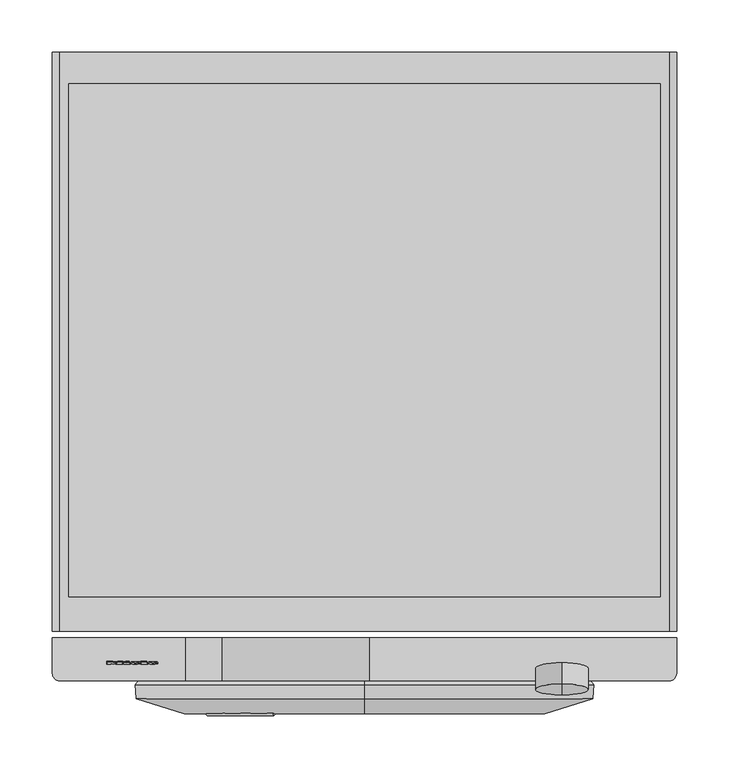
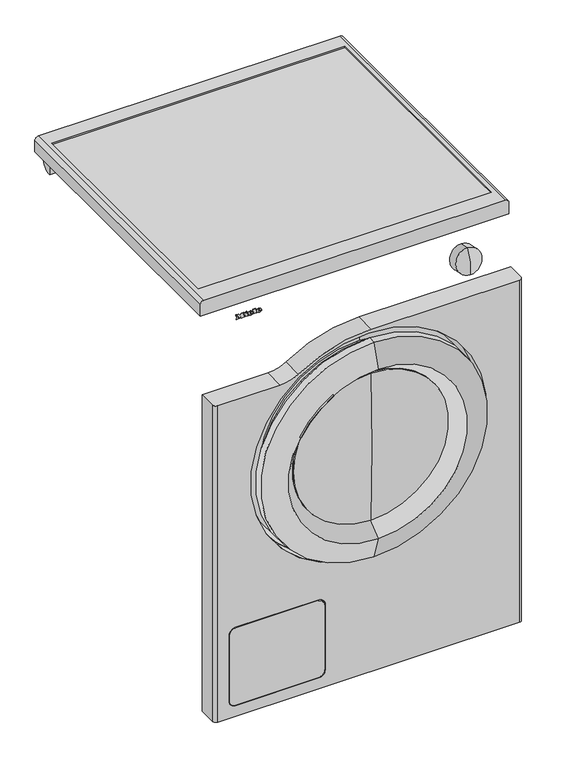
"""IFC4 building model written with IfcOpenShell, lengths in millimetres: proxy geometry, 12506590_B_PWM1108DP_LWSmartBi : 51110801_B_12506590_PWM1108DP_LWSmartBi."""

from ifc_helpers import new_model, si_unit, point, frame, frame_2d, origin, place, context, project, spatial, polyline, circle_curve, ellipse_curve, trimmed, segment, composite_curve, outline, extrude, source, transform, mapped, element, save
from ifc_brep_helpers import plane_surface, cylinder_surface, revolved_surface, extruded_surface, advanced_brep


def specialty_equipment_a851d86d(model_context):
    return source(origin(), model_context, "Body", "SolidModel", [
        advanced_brep(
        [(298.0, -559.0, 712.0), (298.0, -559.0, 13.5), (-298.0, -559.0, 13.5), (-298.0, -559.0, 659.0), (-170.4793435, -559.0, 659.0), (-135.8816811, -559.0, 669.4495268), (5.0, -559.0, 712.0), (0.0, -559.0, 628.0), (0.0, -559.0, 328.0), (-97.8720399, -559.0, 194.7938843), (-257.5266894, -559.0, 194.7938843), (-269.1610931, -559.0, 183.1594806), (-269.1610931, -559.0, 47.2319133), (-257.1610931, -559.0, 35.2319133), (-96.1598327, -559.0, 35.2319133), (-84.1993866, -559.0, 47.1923594), (-84.1993866, -559.0, 184.6186728), (-291.0, -600.0, 13.5), (291.0, -600.0, 13.5), (291.0, -600.0, 712.0), (5.0, -600.0, 712.0), (-135.8816811, -600.0, 669.4495268), (-170.4793435, -600.0, 659.0), (-291.0, -600.0, 659.0), (0.0, -600.0, 250.5), (0.0, -600.0, 705.5), (-257.5266894, -600.0, 194.7938843), (-97.8720399, -600.0, 194.7938843), (-84.1993866, -600.0, 184.6186728), (-84.1993866, -600.0, 47.1923594), (-96.1598327, -600.0, 35.2319133), (-257.1610931, -600.0, 35.2319133), (-269.1610931, -600.0, 47.2319133), (-269.1610931, -600.0, 183.1594806), (298.0, -593.0, 712.0), (-298.0, -593.0, 13.5), (-298.0, -593.0, 659.0), (298.0, -593.0, 13.5), (0.0, -575.2, 705.5), (0.0, -575.2, 250.5), (0.0, -567.7, 671.0), (0.0, -567.7, 698.0), (0.0, -567.7, 258.0), (0.0, -567.7, 285.0), (0.0, -560.7, 289.0414519), (0.0, -560.7, 666.9585481), (0.0, -560.7, 322.8), (0.0, -560.7, 633.2), (0.0, -570.5, 322.8), (0.0, -570.5, 633.2), (0.0, -570.5, 341.8), (0.0, -570.5, 614.2), (0.0, -568.0, 341.8), (0.0, -568.0, 614.2), (0.0, -568.0, 328.0), (0.0, -568.0, 628.0)],
        [
            (0, 1),
            (1, 2),
            (2, 3),
            (3, 4),
            (4, 5, circle_curve(frame((-170.4793435, -559.0, 721.5), z_axis=(0.0, -1.0, 0.0), x_axis=(1.0, 0.0, 0.0)), 62.5)),
            (5, 6, circle_curve(frame((5.0, -559.0, 457.5), z_axis=(0.0, 1.0, 0.0), x_axis=(1.0, 0.0, 0.0)), 254.5)),
            (6, 0),
            (7, 8, circle_curve(frame((0.0, -559.0, 478.0), z_axis=(0.0, -1.0, 0.0), x_axis=(0.0, 0.0, -1.0)), 150.0)),
            (8, 7, circle_curve(frame((0.0, -559.0, 478.0), z_axis=(0.0, -1.0, 0.0), x_axis=(0.0, 0.0, -1.0)), 150.0)),
            (9, 10),
            (10, 11, circle_curve(frame((-257.5266894, -559.0, 183.1594806), z_axis=(0.0, -1.0, 0.0), x_axis=(1.0, 0.0, 0.0)), 11.6344037)),
            (11, 12),
            (12, 13, circle_curve(frame((-257.1610931, -559.0, 47.2319133), z_axis=(0.0, -1.0, 0.0), x_axis=(1.0, 0.0, 0.0)), 12.0)),
            (13, 14),
            (14, 15, circle_curve(frame((-96.1598327, -559.0, 47.1923594), z_axis=(0.0, -1.0, 0.0), x_axis=(1.0, 0.0, 0.0)), 11.9604461)),
            (15, 16),
            (16, 9, circle_curve(frame((-97.8720399, -559.0, 180.5201576), z_axis=(0.0, -1.0, 0.0), x_axis=(1.0, 0.0, 0.0)), 14.2737268)),
            (17, 18),
            (18, 19),
            (19, 20),
            (20, 21, circle_curve(frame((5.0, -600.0, 457.5), z_axis=(0.0, -1.0, 0.0), x_axis=(1.0, 0.0, 0.0)), 254.5)),
            (21, 22, circle_curve(frame((-170.4793435, -600.0, 721.5), z_axis=(0.0, 1.0, 0.0), x_axis=(1.0, 0.0, 0.0)), 62.5)),
            (22, 23),
            (23, 17),
            (24, 25, circle_curve(frame((0.0, -600.0, 478.0), z_axis=(0.0, 1.0, 0.0), x_axis=(0.0, 0.0, -1.0)), 227.5)),
            (25, 24, circle_curve(frame((0.0, -600.0, 478.0), z_axis=(0.0, 1.0, 0.0), x_axis=(0.0, 0.0, -1.0)), 227.5)),
            (26, 27),
            (27, 28, circle_curve(frame((-97.8720399, -600.0, 180.5201576), z_axis=(0.0, 1.0, 0.0), x_axis=(1.0, 0.0, 0.0)), 14.2737268)),
            (28, 29),
            (29, 30, circle_curve(frame((-96.1598327, -600.0, 47.1923594), z_axis=(0.0, 1.0, 0.0), x_axis=(1.0, 0.0, 0.0)), 11.9604461)),
            (30, 31),
            (31, 32, circle_curve(frame((-257.1610931, -600.0, 47.2319133), z_axis=(0.0, 1.0, 0.0), x_axis=(1.0, 0.0, 0.0)), 12.0)),
            (32, 33),
            (33, 26, circle_curve(frame((-257.5266894, -600.0, 183.1594806), z_axis=(0.0, 1.0, 0.0), x_axis=(1.0, 0.0, 0.0)), 11.6344037)),
            (34, 0),
            (6, 20),
            (19, 34, circle_curve(frame((291.0, -593.0, 712.0), z_axis=(0.0, 0.0, 1.0), x_axis=(-1.0, 0.0, 0.0)), 7.0)),
            (2, 35),
            (35, 36),
            (36, 3),
            (1, 37),
            (37, 18, circle_curve(frame((291.0, -593.0, 13.5), z_axis=(0.0, 0.0, -1.0), x_axis=(-1.0, 0.0, 0.0)), 7.0)),
            (17, 35, circle_curve(frame((-291.0, -593.0, 13.5), z_axis=(0.0, 0.0, -1.0), x_axis=(-1.0, 0.0, 0.0)), 7.0)),
            (34, 37),
            (38, 25),
            (24, 39),
            (39, 38, circle_curve(frame((0.0, -575.2, 478.0), z_axis=(0.0, 1.0, 0.0), x_axis=(0.0, 0.0, -1.0)), 227.5)),
            (38, 39, circle_curve(frame((0.0, -575.2, 478.0), z_axis=(0.0, 1.0, 0.0), x_axis=(0.0, 0.0, -1.0)), 227.5)),
            (40, 41),
            (41, 42, circle_curve(frame((0.0, -567.7, 478.0), z_axis=(0.0, -1.0, 0.0), x_axis=(0.0, 0.0, -1.0)), 220.0)),
            (42, 43),
            (43, 40, circle_curve(frame((0.0, -567.7, 478.0), z_axis=(0.0, 1.0, 0.0), x_axis=(0.0, 0.0, -1.0)), 193.0)),
            (40, 43, circle_curve(frame((0.0, -567.7, 478.0), z_axis=(0.0, 1.0, 0.0), x_axis=(0.0, 0.0, -1.0)), 193.0)),
            (42, 41, circle_curve(frame((0.0, -567.7, 478.0), z_axis=(0.0, -1.0, 0.0), x_axis=(0.0, 0.0, -1.0)), 220.0)),
            (43, 44),
            (44, 45, circle_curve(frame((0.0, -560.7, 478.0), z_axis=(0.0, 1.0, 0.0), x_axis=(0.0, 0.0, -1.0)), 188.9585481)),
            (45, 40),
            (45, 44, circle_curve(frame((0.0, -560.7, 478.0), z_axis=(0.0, 1.0, 0.0), x_axis=(0.0, 0.0, -1.0)), 188.9585481)),
            (44, 46),
            (46, 47, circle_curve(frame((0.0, -560.7, 478.0), z_axis=(0.0, 1.0, 0.0), x_axis=(0.0, 0.0, -1.0)), 155.2)),
            (47, 45),
            (47, 46, circle_curve(frame((0.0, -560.7, 478.0), z_axis=(0.0, 1.0, 0.0), x_axis=(0.0, 0.0, -1.0)), 155.2)),
            (46, 48),
            (48, 49, circle_curve(frame((0.0, -570.5, 478.0), z_axis=(0.0, 1.0, 0.0), x_axis=(0.0, 0.0, -1.0)), 155.2)),
            (49, 47),
            (49, 48, circle_curve(frame((0.0, -570.5, 478.0), z_axis=(0.0, 1.0, 0.0), x_axis=(0.0, 0.0, -1.0)), 155.2)),
            (48, 50),
            (50, 51, circle_curve(frame((0.0, -570.5, 478.0), z_axis=(0.0, 1.0, 0.0), x_axis=(0.0, 0.0, -1.0)), 136.2)),
            (51, 49),
            (51, 50, circle_curve(frame((0.0, -570.5, 478.0), z_axis=(0.0, 1.0, 0.0), x_axis=(0.0, 0.0, -1.0)), 136.2)),
            (50, 52),
            (52, 53, circle_curve(frame((0.0, -568.0, 478.0), z_axis=(0.0, 1.0, 0.0), x_axis=(0.0, 0.0, -1.0)), 136.2)),
            (53, 51),
            (53, 52, circle_curve(frame((0.0, -568.0, 478.0), z_axis=(0.0, 1.0, 0.0), x_axis=(0.0, 0.0, -1.0)), 136.2)),
            (52, 54),
            (54, 55, circle_curve(frame((0.0, -568.0, 478.0), z_axis=(0.0, 1.0, 0.0), x_axis=(0.0, 0.0, -1.0)), 150.0)),
            (55, 53),
            (55, 54, circle_curve(frame((0.0, -568.0, 478.0), z_axis=(0.0, 1.0, 0.0), x_axis=(0.0, 0.0, -1.0)), 150.0)),
            (54, 8),
            (7, 55),
            (39, 42, circle_curve(frame((0.0, -575.2, 258.0), z_axis=(1.0, 0.0, 0.0), x_axis=(0.0, 1.0, 0.0)), 7.5)),
            (41, 38, circle_curve(frame((0.0, -575.2, 698.0), z_axis=(1.0, 0.0, 0.0), x_axis=(0.0, 1.0, 0.0)), 7.5)),
            (23, 36, circle_curve(frame((-291.0, -593.0, 659.0), z_axis=(0.0, 0.0, -1.0), x_axis=(-1.0, 0.0, 0.0)), 7.0)),
            (5, 21),
            (4, 22),
            (26, 10),
            (9, 27),
            (33, 11),
            (32, 12),
            (31, 13),
            (30, 14),
            (29, 15),
            (28, 16),
        ],
        [
            plane_surface(frame((-298.0, -559.0, 712.0), z_axis=(0.0, 1.0, 0.0), x_axis=(1.0, 0.0, 0.0))),
            plane_surface(frame((-298.0, -600.0, 712.0), z_axis=(0.0, -1.0, 0.0), x_axis=(-1.0, 0.0, 0.0))),
            plane_surface(frame((298.0, -600.0, 712.0), z_axis=(0.0, 0.0, 1.0), x_axis=(0.0, 1.0, 0.0))),
            plane_surface(frame((-298.0, -600.0, 712.0), z_axis=(-1.0, 0.0, 0.0), x_axis=(0.0, 1.0, 0.0))),
            plane_surface(frame((-298.0, -600.0, 13.5), z_axis=(0.0, 0.0, -1.0), x_axis=(0.0, 1.0, 0.0))),
            plane_surface(frame((298.0, -600.0, 13.5), z_axis=(1.0, 0.0, 0.0), x_axis=(0.0, 1.0, 0.0))),
            revolved_surface(polyline([(0.0, -575.2000000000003, 250.5), (0.0, -600.0, 250.5)]), (0.0, 1543.3738435, 478.0), (0.0, 1.0, 0.0)),
            plane_surface(frame((0.0, -567.7, 478.0), z_axis=(0.0, -1.0, 0.0), x_axis=(0.0, 0.0, -1.0))),
            revolved_surface(polyline([(0.0, -560.7, 289.0414519), (0.0, -567.7, 285.0)]), (0.0, 1543.3738435, 478.0), (0.0, 1.0, 0.0)),
            plane_surface(frame((0.0, -560.7, 478.0), z_axis=(0.0, -1.0, 0.0), x_axis=(0.0, 0.0, -1.0))),
            cylinder_surface(frame((0.0, 1543.3738435, 478.0), z_axis=(0.0, 1.0, 0.0), x_axis=(0.0, 0.0, -1.0)), 155.2),
            plane_surface(frame((0.0, -570.5, 478.0), z_axis=(0.0, -1.0, 0.0), x_axis=(0.0, 0.0, -1.0))),
            revolved_surface(polyline([(0.0, -568.0, 341.8), (0.0, -570.5, 341.8)]), (0.0, 1543.3738435, 478.0), (0.0, 1.0, 0.0)),
            plane_surface(frame((0.0, -568.0, 478.0), z_axis=(0.0, 1.0, 0.0), x_axis=(0.0, 0.0, -1.0))),
            revolved_surface(polyline([(0.0, -559.0, 328.0), (0.0, -568.0, 328.0)]), (0.0, 1543.3738435, 478.0), (0.0, 1.0, 0.0)),
            revolved_surface(trimmed(ellipse_curve(frame((0.0, -575.2, 258.0), z_axis=(-1.0, 0.0, 0.0), x_axis=(0.0, 1.0, 0.0)), 7.5, 7.5), [point((0.0, -567.7, 258.0))], [point((0.0, -575.2, 250.5))], True, "CARTESIAN"), (0.0, 1543.3738435, 478.0), (0.0, 1.0, 0.0)),
            cylinder_surface(frame((-291.0, -593.0, 712.0), z_axis=(0.0, 0.0, -1.0), x_axis=(-1.0, 0.0, 0.0)), 7.0),
            cylinder_surface(frame((291.0, -593.0, 712.0), z_axis=(0.0, 0.0, -1.0), x_axis=(-1.0, 0.0, 0.0)), 7.0),
            cylinder_surface(frame((5.0, -559.0, 457.5), z_axis=(0.0, 1.0, 0.0), x_axis=(1.0, 0.0, 0.0)), 254.5),
            revolved_surface(polyline([(-107.9793435, -600.0, 721.5), (-107.9793435, -559.0, 721.5)]), (-170.4793435, -559.0, 721.5), (0.0, -1.0, 0.0)),
            plane_surface(frame((-298.0, -600.0, 659.0), z_axis=(0.0, 0.0, 1.0), x_axis=(0.0, 1.0, 0.0))),
            plane_surface(frame((-97.8720399, -600.0, 194.7938843), z_axis=(0.0, 0.0, -1.0), x_axis=(0.0, 1.0, 0.0))),
            revolved_surface(polyline([(-245.8922857, -600.0, 183.1594806), (-245.8922857, -559.0, 183.1594806)]), (-257.5266894, -559.0, 183.1594806), (0.0, -1.0, 0.0)),
            plane_surface(frame((-269.1610931, -600.0, 183.1594806), z_axis=(1.0, 0.0, 0.0), x_axis=(0.0, 1.0, 0.0))),
            revolved_surface(polyline([(-245.16109310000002, -600.0, 47.2319133), (-245.16109310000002, -559.0, 47.2319133)]), (-257.1610931, -559.0, 47.2319133), (0.0, -1.0, 0.0)),
            plane_surface(frame((-257.1610931, -600.0, 35.2319133), z_axis=(0.0, 0.0, 1.0), x_axis=(0.0, 1.0, 0.0))),
            revolved_surface(polyline([(-84.1993866, -600.0, 47.1923594), (-84.1993866, -559.0, 47.1923594)]), (-96.1598327, -559.0, 47.1923594), (0.0, -1.0, 0.0)),
            plane_surface(frame((-84.1993866, -600.0, 47.1923594), z_axis=(-1.0, 0.0, 0.0), x_axis=(0.0, 1.0, 0.0))),
            revolved_surface(polyline([(-83.5983131, -600.0, 180.5201576), (-83.5983131, -559.0, 180.5201576)]), (-97.8720399, -559.0, 180.5201576), (0.0, -1.0, 0.0)),
        ],
        [
            (0, [[1, 2, 3, 4, 5, 6, 7], [8, 9], [10, 11, 12, 13, 14, 15, 16, 17]]),
            (1, [[18, 19, 20, 21, 22, 23, 24], [25, 26], [27, 28, 29, 30, 31, 32, 33, 34]]),
            (2, [[35, -7, 36, -20, 37]]),
            (3, [[38, 39, 40, -3]]),
            (4, [[-2, 41, 42, -18, 43, -38]]),
            (5, [[-1, -35, 44, -41]]),
            (6, [[45, -25, 46, 47]]),
            (6, [[-45, 48, -46, -26]]),
            (7, [[49, 50, 51, 52]]),
            (7, [[-49, 53, -51, 54]]),
            (8, [[-52, 55, 56, 57]]),
            (8, [[-53, -57, 58, -55]]),
            (9, [[-56, 59, 60, 61]]),
            (9, [[-58, -61, 62, -59]]),
            (10, [[-60, 63, 64, 65]]),
            (10, [[-62, -65, 66, -63]]),
            (11, [[-64, 67, 68, 69]]),
            (11, [[-66, -69, 70, -67]]),
            (12, [[-68, 71, 72, 73]]),
            (12, [[-70, -73, 74, -71]]),
            (13, [[-72, 75, 76, 77]]),
            (13, [[-74, -77, 78, -75]]),
            (14, [[-76, 79, -8, 80]]),
            (14, [[-78, -80, -9, -79]]),
            (15, [[-47, 81, -50, 82]]),
            (15, [[-48, -82, -54, -81]]),
            (16, [[-43, -24, 83, -39]]),
            (17, [[-19, -42, -44, -37]]),
            (18, [[84, -21, -36, -6]]),
            (19, [[-84, -5, 85, -22]]),
            (20, [[-85, -4, -40, -83, -23]]),
            (21, [[86, -10, 87, -27]]),
            (22, [[-86, -34, 88, -11]]),
            (23, [[-88, -33, 89, -12]]),
            (24, [[-89, -32, 90, -13]]),
            (25, [[-90, -31, 91, -14]]),
            (26, [[-91, -30, 92, -15]]),
            (27, [[-92, -29, 93, -16]]),
            (28, [[-87, -17, -93, -28]]),
        ],
    ),
        advanced_brep(
        [(-85.1993866, -559.0, 178.871588), (-85.1993866, -559.0, 49.2598644), (-98.2273377, -559.0, 36.2319133), (-257.1610931, -559.0, 36.2319133), (-268.1610931, -559.0, 47.2319133), (-268.1610931, -559.0, 180.922098), (-255.2893068, -559.0, 193.7938843), (-99.0652877, -559.0, 193.7938843), (-85.1993866, -600.0, 49.2598644), (-85.1993866, -600.0, 178.871588), (-99.0652877, -600.0, 193.7938843), (-255.2893068, -600.0, 193.7938843), (-268.1610931, -600.0, 180.922098), (-268.1610931, -600.0, 47.2319133), (-257.1610931, -600.0, 36.2319133), (-98.2273377, -600.0, 36.2319133)],
        [
            (0, 1),
            (1, 2, circle_curve(frame((-98.2273377, -559.0, 49.2598644), z_axis=(0.0, 1.0, 0.0), x_axis=(1.0, 0.0, 0.0)), 13.0279511)),
            (2, 3),
            (3, 4, circle_curve(frame((-257.1610931, -559.0, 47.2319133), z_axis=(0.0, 1.0, 0.0), x_axis=(1.0, 0.0, 0.0)), 11.0)),
            (4, 5),
            (5, 6, circle_curve(frame((-255.2893068, -559.0, 180.922098), z_axis=(0.0, 1.0, 0.0), x_axis=(1.0, 0.0, 0.0)), 12.8717863)),
            (6, 7),
            (7, 0, circle_curve(frame((-99.9078885, -559.0, 179.10764), z_axis=(0.0, 1.0, 0.0), x_axis=(1.0, 0.0, 0.0)), 14.7103959)),
            (8, 9),
            (9, 10, circle_curve(frame((-99.9078885, -600.0, 179.10764), z_axis=(0.0, -1.0, 0.0), x_axis=(1.0, 0.0, 0.0)), 14.7103959)),
            (10, 11),
            (11, 12, circle_curve(frame((-255.2893068, -600.0, 180.922098), z_axis=(0.0, -1.0, 0.0), x_axis=(1.0, 0.0, 0.0)), 12.8717863)),
            (12, 13),
            (13, 14, circle_curve(frame((-257.1610931, -600.0, 47.2319133), z_axis=(0.0, -1.0, 0.0), x_axis=(1.0, 0.0, 0.0)), 11.0)),
            (14, 15),
            (15, 8, circle_curve(frame((-98.2273377, -600.0, 49.2598644), z_axis=(0.0, -1.0, 0.0), x_axis=(1.0, 0.0, 0.0)), 13.0279511)),
            (8, 1),
            (0, 9),
            (15, 2),
            (14, 3),
            (13, 4),
            (12, 5),
            (11, 6),
            (10, 7),
        ],
        [
            plane_surface(frame((-298.0, -559.0, 712.0), z_axis=(0.0, 1.0, 0.0), x_axis=(1.0, 0.0, 0.0))),
            plane_surface(frame((-298.0, -600.0, 712.0), z_axis=(0.0, -1.0, 0.0), x_axis=(-1.0, 0.0, 0.0))),
            plane_surface(frame((-85.1993866, -600.0, 178.871588), z_axis=(1.0, 0.0, 0.0), x_axis=(0.0, 1.0, 0.0))),
            cylinder_surface(frame((-98.2273377, 0.0, 49.2598644), z_axis=(0.0, 1.0, 0.0), x_axis=(1.0, 0.0, 0.0)), 13.0279511),
            plane_surface(frame((-98.2273377, -600.0, 36.2319133), z_axis=(0.0, 0.0, -1.0), x_axis=(0.0, 1.0, 0.0))),
            cylinder_surface(frame((-257.1610931, 0.0, 47.2319133), z_axis=(0.0, 1.0, 0.0), x_axis=(1.0, 0.0, 0.0)), 11.0),
            plane_surface(frame((-268.1610931, -600.0, 47.2319133), z_axis=(-1.0, 0.0, 0.0), x_axis=(0.0, 1.0, 0.0))),
            cylinder_surface(frame((-255.2893068, 0.0, 180.922098), z_axis=(0.0, 1.0, 0.0), x_axis=(1.0, 0.0, 0.0)), 12.8717863),
            plane_surface(frame((-255.2893068, -600.0, 193.7938843), z_axis=(0.0, 0.0, 1.0), x_axis=(0.0, 1.0, 0.0))),
            cylinder_surface(frame((-99.9078885, 0.0, 179.10764), z_axis=(0.0, 1.0, 0.0), x_axis=(1.0, 0.0, 0.0)), 14.7103959),
        ],
        [
            (0, [[1, 2, 3, 4, 5, 6, 7, 8]]),
            (1, [[9, 10, 11, 12, 13, 14, 15, 16]]),
            (2, [[17, -1, 18, -9]]),
            (3, [[-17, -16, 19, -2]]),
            (4, [[-19, -15, 20, -3]]),
            (5, [[-20, -14, 21, -4]]),
            (6, [[-21, -13, 22, -5]]),
            (7, [[-22, -12, 23, -6]]),
            (8, [[-23, -11, 24, -7]]),
            (9, [[-18, -8, -24, -10]]),
        ],
    ),
        advanced_brep(
        [(-202.64, -583.6785086, 811.5729364), (-202.64, -583.5105159, 812.3632796), (-197.288, -583.5105159, 812.3632796), (-206.6, -583.5105159, 812.3632796), (-204.4, -584.0727091, 809.7183685), (-197.424, -583.6785086, 811.5729364), (-199.84, -583.6785086, 811.5729364), (-201.744, -583.8647975, 810.6965161), (-202.64, -583.2976144, 813.3649028), (-202.64, -583.1163154, 814.2178475), (-201.272, -583.1163154, 814.2178475), (-201.272, -583.2976144, 813.3649028), (-202.64, -582.700361, 811.3650247), (-201.744, -582.8866499, 810.4886044), (-199.84, -582.700361, 811.3650247), (-197.424, -582.700361, 811.3650247), (-204.4, -583.0945615, 809.5104568), (-206.6, -582.5323683, 812.1553679), (-197.288, -582.5323683, 812.1553679), (-202.64, -582.5323683, 812.1553679), (-202.64, -582.3194668, 813.1569911), (-201.272, -582.3194668, 813.1569911), (-201.272, -582.1381678, 814.0099358), (-202.64, -582.1381678, 814.0099358)],
        [
            (0, 1),
            (1, 2),
            (2, 3, ellipse_curve(frame((-201.944, -583.5105159, 812.3632796), z_axis=(0.0, -0.9781476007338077, 0.2079116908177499), x_axis=(-1.0, 0.0, 0.0)), 4.656, 3.848)),
            (3, 4, circle_curve(frame((-203.5039564, -583.453964, 812.6293358), z_axis=(0.0, -0.9781476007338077, 0.2079116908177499), x_axis=(0.0, -0.2079116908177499, -0.9781476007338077)), 3.1079688)),
            (4, 5, circle_curve(frame((-202.0372064, -583.0148545, 814.6951835), z_axis=(0.0, -0.9781476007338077, 0.2079116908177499), x_axis=(0.0, -0.2079116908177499, -0.9781476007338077)), 5.6098607)),
            (5, 6),
            (6, 7, circle_curve(frame((-201.3529412, -583.5238223, 812.3006782), z_axis=(0.0, 0.9781476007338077, -0.2079116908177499), x_axis=(0.0, -0.2079116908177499, -0.9781476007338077)), 1.6859795)),
            (7, 0, circle_curve(frame((-201.744, -583.6785086, 811.5729364), z_axis=(0.0, 0.9781476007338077, -0.2079116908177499), x_axis=(0.0, -0.2079116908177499, -0.9781476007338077)), 0.896)),
            (8, 9),
            (9, 10, circle_curve(frame((-201.956, -583.1163154, 814.2178475), z_axis=(0.0, 0.9781476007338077, -0.2079116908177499), x_axis=(0.0, -0.2079116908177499, -0.9781476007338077)), 0.684)),
            (10, 11),
            (11, 8),
            (12, 13, circle_curve(frame((-201.744, -582.700361, 811.3650247), z_axis=(0.0, -0.9781476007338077, 0.2079116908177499), x_axis=(0.0, -0.2079116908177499, -0.9781476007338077)), 0.896)),
            (13, 14, circle_curve(frame((-201.3529412, -582.5456747, 812.0927665), z_axis=(0.0, -0.9781476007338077, 0.2079116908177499), x_axis=(0.0, -0.2079116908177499, -0.9781476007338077)), 1.6859795)),
            (14, 15),
            (15, 16, circle_curve(frame((-202.0372064, -582.0367069, 814.4872718), z_axis=(0.0, 0.9781476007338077, -0.2079116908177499), x_axis=(0.0, -0.2079116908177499, -0.9781476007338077)), 5.6098607)),
            (16, 17, circle_curve(frame((-203.5039564, -582.4758164, 812.4214241), z_axis=(0.0, 0.9781476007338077, -0.2079116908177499), x_axis=(0.0, -0.2079116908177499, -0.9781476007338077)), 3.1079688)),
            (17, 18, ellipse_curve(frame((-201.944, -582.5323683, 812.1553679), z_axis=(0.0, 0.9781476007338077, -0.2079116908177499), x_axis=(-1.0, 0.0, 0.0)), 4.656, 3.848)),
            (18, 19),
            (19, 12),
            (20, 21),
            (21, 22),
            (22, 23, circle_curve(frame((-201.956, -582.1381678, 814.0099358), z_axis=(0.0, -0.9781476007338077, 0.2079116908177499), x_axis=(0.0, -0.2079116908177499, -0.9781476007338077)), 0.684)),
            (23, 20),
            (0, 12),
            (19, 1),
            (18, 2),
            (5, 15),
            (14, 6),
            (17, 3),
            (13, 7),
            (16, 4),
            (8, 20),
            (23, 9),
            (22, 10),
            (21, 11),
        ],
        [
            plane_surface(frame((-202.64, -583.5105159, 812.3632796), z_axis=(0.0, -0.9781476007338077, 0.2079116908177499), x_axis=(0.0, 0.2079116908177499, 0.9781476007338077))),
            plane_surface(frame((-202.64, -582.5323683, 812.1553679), z_axis=(0.0, 0.9781476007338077, -0.2079116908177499), x_axis=(0.0, -0.2079116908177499, -0.9781476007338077))),
            plane_surface(frame((-202.64, -583.6785086, 811.5729364), z_axis=(1.0000000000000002, 0.0, 0.0), x_axis=(0.0, 0.978147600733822, -0.20791169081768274))),
            plane_surface(frame((-202.64, -583.5105159, 812.3632796), z_axis=(0.0, -0.20791169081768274, -0.978147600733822), x_axis=(0.0, 0.978147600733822, -0.20791169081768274))),
            plane_surface(frame((-197.424, -583.6785086, 811.5729364), z_axis=(0.0, 0.20791169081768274, 0.978147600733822), x_axis=(0.0, 0.978147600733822, -0.20791169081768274))),
            extruded_surface(trimmed(ellipse_curve(frame((-201.944, -581.5542207, 811.9474562), z_axis=(0.0, -0.9781476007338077, 0.2079116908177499), x_axis=(-1.0, 0.0, 0.0)), 4.656, 3.848), [point((-197.288, -581.5542207, 811.9474562))], [point((-206.6, -581.5542207, 811.9474562))], True, "CARTESIAN"), (0.0, -0.9781476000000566, 0.20791169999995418), 1.0000000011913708),
            revolved_surface(polyline([(-201.3529412, -582.896209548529, 810.4436296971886), (-201.3529412, -583.8743571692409, 810.6515413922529)]), (-201.3529412, -582.5456747, 812.0927665), (0.0, 0.9781476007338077, -0.2079116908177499)),
            revolved_surface(polyline([(-201.744, -582.8866498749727, 810.4886044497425), (-201.744, -583.8647974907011, 810.6965161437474)]), (-201.744, -582.700361, 811.3650247), (0.0, 0.9781476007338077, -0.2079116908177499)),
            cylinder_surface(frame((-203.5039564, -582.4758164, 812.4214241), z_axis=(0.0, -0.9781476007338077, 0.2079116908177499), x_axis=(0.0, -0.2079116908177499, -0.9781476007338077)), 3.1079688),
            cylinder_surface(frame((-202.0372064, -582.0367069, 814.4872718), z_axis=(0.0, -0.9781476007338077, 0.2079116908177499), x_axis=(0.0, -0.2079116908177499, -0.9781476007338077)), 5.6098607),
            plane_surface(frame((-202.64, -583.2976144, 813.3649028), z_axis=(1.0000000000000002, 0.0, 0.0), x_axis=(0.0, 0.9781476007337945, -0.20791169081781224))),
            revolved_surface(polyline([(-201.956, -582.2803793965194, 813.340882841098), (-201.956, -583.2585269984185, 813.5487945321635)]), (-201.956, -582.1381678, 814.0099358), (0.0, 0.9781476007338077, -0.2079116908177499)),
            plane_surface(frame((-201.272, -583.1163154, 814.2178475), z_axis=(-1.0000000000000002, 0.0, 0.0), x_axis=(0.0, 0.978147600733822, -0.20791169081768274))),
            plane_surface(frame((-201.272, -583.2976144, 813.3649028), z_axis=(0.0, 0.20791169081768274, 0.978147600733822), x_axis=(0.0, 0.978147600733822, -0.20791169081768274))),
        ],
        [
            (0, [[1, 2, 3, 4, 5, 6, 7, 8], [9, 10, 11, 12]]),
            (1, [[13, 14, 15, 16, 17, 18, 19, 20], [21, 22, 23, 24]]),
            (2, [[-1, 25, -20, 26]]),
            (3, [[-2, -26, -19, 27]]),
            (4, [[-6, 28, -15, 29]]),
            (5, [[-3, -27, -18, 30]]),
            (6, [[-7, -29, -14, 31]]),
            (7, [[-8, -31, -13, -25]]),
            (8, [[-4, -30, -17, 32]]),
            (9, [[-5, -32, -16, -28]]),
            (10, [[-9, 33, -24, 34]]),
            (11, [[-10, -34, -23, 35]]),
            (12, [[-11, -35, -22, 36]]),
            (13, [[-12, -36, -21, -33]]),
        ],
    ),
        advanced_brep(
        [(-219.336, -583.6785086, 811.5729364), (-219.336, -583.5105159, 812.3632796), (-213.984, -583.5105159, 812.3632796), (-223.296, -583.5105159, 812.3632796), (-221.096, -584.0727091, 809.7183685), (-214.12, -583.6785086, 811.5729364), (-216.536, -583.6785086, 811.5729364), (-218.44, -583.8647975, 810.6965161), (-219.336, -583.2976144, 813.3649028), (-219.336, -583.1163154, 814.2178475), (-217.968, -583.1163154, 814.2178475), (-217.968, -583.2976144, 813.3649028), (-219.336, -582.700361, 811.3650247), (-218.44, -582.8866499, 810.4886044), (-216.536, -582.700361, 811.3650247), (-214.12, -582.700361, 811.3650247), (-221.096, -583.0945615, 809.5104568), (-223.296, -582.5323683, 812.1553679), (-213.984, -582.5323683, 812.1553679), (-219.336, -582.5323683, 812.1553679), (-219.336, -582.3194668, 813.1569911), (-217.968, -582.3194668, 813.1569911), (-217.968, -582.1381678, 814.0099358), (-219.336, -582.1381678, 814.0099358)],
        [
            (0, 1),
            (1, 2),
            (2, 3, ellipse_curve(frame((-218.64, -583.5105159, 812.3632796), z_axis=(0.0, -0.9781476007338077, 0.2079116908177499), x_axis=(-1.0, 0.0, 0.0)), 4.656, 3.848)),
            (3, 4, circle_curve(frame((-220.1999564, -583.453964, 812.6293358), z_axis=(0.0, -0.9781476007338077, 0.2079116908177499), x_axis=(0.0, -0.2079116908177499, -0.9781476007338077)), 3.1079688)),
            (4, 5, circle_curve(frame((-218.7332064, -583.0148545, 814.6951835), z_axis=(0.0, -0.9781476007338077, 0.2079116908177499), x_axis=(0.0, -0.2079116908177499, -0.9781476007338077)), 5.6098607)),
            (5, 6),
            (6, 7, circle_curve(frame((-218.0489412, -583.5238223, 812.3006782), z_axis=(0.0, 0.9781476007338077, -0.2079116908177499), x_axis=(0.0, -0.2079116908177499, -0.9781476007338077)), 1.6859795)),
            (7, 0, circle_curve(frame((-218.44, -583.6785086, 811.5729364), z_axis=(0.0, 0.9781476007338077, -0.2079116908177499), x_axis=(0.0, -0.2079116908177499, -0.9781476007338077)), 0.896)),
            (8, 9),
            (9, 10, circle_curve(frame((-218.652, -583.1163154, 814.2178475), z_axis=(0.0, 0.9781476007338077, -0.2079116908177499), x_axis=(0.0, -0.2079116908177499, -0.9781476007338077)), 0.684)),
            (10, 11),
            (11, 8),
            (12, 13, circle_curve(frame((-218.44, -582.700361, 811.3650247), z_axis=(0.0, -0.9781476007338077, 0.2079116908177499), x_axis=(0.0, -0.2079116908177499, -0.9781476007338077)), 0.896)),
            (13, 14, circle_curve(frame((-218.0489412, -582.5456747, 812.0927665), z_axis=(0.0, -0.9781476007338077, 0.2079116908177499), x_axis=(0.0, -0.2079116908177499, -0.9781476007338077)), 1.6859795)),
            (14, 15),
            (15, 16, circle_curve(frame((-218.7332064, -582.0367069, 814.4872718), z_axis=(0.0, 0.9781476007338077, -0.2079116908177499), x_axis=(0.0, -0.2079116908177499, -0.9781476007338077)), 5.6098607)),
            (16, 17, circle_curve(frame((-220.1999564, -582.4758164, 812.4214241), z_axis=(0.0, 0.9781476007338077, -0.2079116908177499), x_axis=(0.0, -0.2079116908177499, -0.9781476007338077)), 3.1079688)),
            (17, 18, ellipse_curve(frame((-218.64, -582.5323683, 812.1553679), z_axis=(0.0, 0.9781476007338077, -0.2079116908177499), x_axis=(-1.0, 0.0, 0.0)), 4.656, 3.848)),
            (18, 19),
            (19, 12),
            (20, 21),
            (21, 22),
            (22, 23, circle_curve(frame((-218.652, -582.1381678, 814.0099358), z_axis=(0.0, -0.9781476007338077, 0.2079116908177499), x_axis=(0.0, -0.2079116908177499, -0.9781476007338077)), 0.684)),
            (23, 20),
            (0, 12),
            (19, 1),
            (18, 2),
            (5, 15),
            (14, 6),
            (17, 3),
            (13, 7),
            (16, 4),
            (8, 20),
            (23, 9),
            (22, 10),
            (21, 11),
        ],
        [
            plane_surface(frame((-219.336, -583.5105159, 812.3632796), z_axis=(0.0, -0.9781476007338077, 0.2079116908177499), x_axis=(0.0, 0.2079116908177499, 0.9781476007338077))),
            plane_surface(frame((-219.336, -582.5323683, 812.1553679), z_axis=(0.0, 0.9781476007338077, -0.2079116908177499), x_axis=(0.0, -0.2079116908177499, -0.9781476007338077))),
            plane_surface(frame((-219.336, -583.6785086, 811.5729364), z_axis=(1.0000000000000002, 0.0, 0.0), x_axis=(0.0, 0.978147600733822, -0.20791169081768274))),
            plane_surface(frame((-219.336, -583.5105159, 812.3632796), z_axis=(0.0, -0.20791169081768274, -0.978147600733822), x_axis=(0.0, 0.978147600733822, -0.20791169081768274))),
            plane_surface(frame((-214.12, -583.6785086, 811.5729364), z_axis=(0.0, 0.20791169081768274, 0.978147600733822), x_axis=(0.0, 0.978147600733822, -0.20791169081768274))),
            extruded_surface(trimmed(ellipse_curve(frame((-218.64, -581.5542207, 811.9474562), z_axis=(0.0, -0.9781476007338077, 0.2079116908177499), x_axis=(-1.0, 0.0, 0.0)), 4.656, 3.848), [point((-213.984, -581.5542207, 811.9474562))], [point((-223.296, -581.5542207, 811.9474562))], True, "CARTESIAN"), (0.0, -0.9781476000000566, 0.20791169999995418), 1.0000000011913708),
            revolved_surface(polyline([(-218.0489412, -582.896209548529, 810.4436296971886), (-218.0489412, -583.8743571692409, 810.6515413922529)]), (-218.0489412, -582.5456747, 812.0927665), (0.0, 0.9781476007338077, -0.2079116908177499)),
            revolved_surface(polyline([(-218.44, -582.8866498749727, 810.4886044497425), (-218.44, -583.8647974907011, 810.6965161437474)]), (-218.44, -582.700361, 811.3650247), (0.0, 0.9781476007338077, -0.2079116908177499)),
            cylinder_surface(frame((-220.1999564, -582.4758164, 812.4214241), z_axis=(0.0, -0.9781476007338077, 0.2079116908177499), x_axis=(0.0, -0.2079116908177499, -0.9781476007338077)), 3.1079688),
            cylinder_surface(frame((-218.7332064, -582.0367069, 814.4872718), z_axis=(0.0, -0.9781476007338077, 0.2079116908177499), x_axis=(0.0, -0.2079116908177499, -0.9781476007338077)), 5.6098607),
            plane_surface(frame((-219.336, -583.2976144, 813.3649028), z_axis=(1.0000000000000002, 0.0, 0.0), x_axis=(0.0, 0.9781476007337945, -0.20791169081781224))),
            revolved_surface(polyline([(-218.652, -582.2803793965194, 813.340882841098), (-218.652, -583.2585269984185, 813.5487945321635)]), (-218.652, -582.1381678, 814.0099358), (0.0, 0.9781476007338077, -0.2079116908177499)),
            plane_surface(frame((-217.968, -583.1163154, 814.2178475), z_axis=(-1.0000000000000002, 0.0, 0.0), x_axis=(0.0, 0.978147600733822, -0.20791169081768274))),
            plane_surface(frame((-217.968, -583.2976144, 813.3649028), z_axis=(0.0, 0.20791169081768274, 0.978147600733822), x_axis=(0.0, 0.978147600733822, -0.20791169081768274))),
        ],
        [
            (0, [[1, 2, 3, 4, 5, 6, 7, 8], [9, 10, 11, 12]]),
            (1, [[13, 14, 15, 16, 17, 18, 19, 20], [21, 22, 23, 24]]),
            (2, [[-1, 25, -20, 26]]),
            (3, [[-2, -26, -19, 27]]),
            (4, [[-6, 28, -15, 29]]),
            (5, [[-3, -27, -18, 30]]),
            (6, [[-7, -29, -14, 31]]),
            (7, [[-8, -31, -13, -25]]),
            (8, [[-4, -30, -17, 32]]),
            (9, [[-5, -32, -16, -28]]),
            (10, [[-9, 33, -24, 34]]),
            (11, [[-10, -34, -23, 35]]),
            (12, [[-11, -35, -22, 36]]),
            (13, [[-12, -36, -21, -33]]),
        ],
    ),
        extrude(outline(polyline([(0.0, 0.0), (-0.0109087, -2.9993294), (-1.4390416, -2.9920868), (-1.4315307, 0.0), (0.0, 0.0)])), frame((-228.08, -581.5294023, 816.873952), z_axis=(0.0, -0.9781476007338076, 0.20791169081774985), x_axis=(-0.42472021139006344, 0.18822758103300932, 0.8855411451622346)), (0.0, 0.0, 1.0), 1.0),
        extrude(outline(polyline([(-0.4933908, 2.4141097), (-2.7800844, -2.4601583), (-7.0459742, -0.4588766), (-7.4401146, -1.2990179), (-8.6568709, -0.728194), (-5.976037, 4.9862153), (-4.7592806, 4.4153913), (-5.1636142, 3.5535223), (-2.1941494, 2.16044), (-1.7898157, 3.0223091), (-0.4933908, 2.4141097)])), frame((-228.08, -581.5294023, 816.873952), z_axis=(0.0, -0.9781476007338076, 0.20791169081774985), x_axis=(-0.42472021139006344, 0.18822758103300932, 0.8855411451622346)), (0.0, 0.0, 1.0), 1.0),
        extrude(outline(polyline([(0.0, 0.0), (0.0, -1.3039999), (-5.504, -1.3039999), (-5.504, 5.352), (-6.488, 5.352), (-6.488, 6.696), (0.0, 6.696), (0.0, 5.352), (-0.96, 5.352), (-0.96, 0.0), (0.0, 0.0)])), frame((-213.536, -581.7023849, 816.0601332), z_axis=(0.0, -0.9781476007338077, 0.2079116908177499), x_axis=(-1.0, 0.0, 0.0)), (0.0, 0.0, 1.0), 1.0),
        extrude(outline(polyline([(0.0, 0.0), (0.0, -1.3039999), (-5.576, -1.3039999), (-7.92, 1.6960001), (-10.256, -1.3039999), (-15.128, -1.3039999), (-15.128, 0.0), (-14.112, 0.0), (-14.112, 5.352), (-15.128, 5.352), (-15.128, 6.696), (-8.744, 6.696), (-8.744, 5.352), (-9.728, 5.352), (-9.728, 1.8807777), (-6.136, 6.696), (-2.56, 1.9488753), (-2.56, 5.352), (-3.52, 5.352), (-3.52, 6.696), (0.0, 6.696), (0.0, 5.352), (-0.968, 5.352), (-0.968, 0.0), (0.0, 0.0)])), frame((-246.0, -581.7023849, 816.0601332), z_axis=(0.0, -0.9781476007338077, 0.2079116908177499), x_axis=(-1.0, 0.0, 0.0)), (0.0, 0.0, 1.0), 1.0),
        advanced_brep(
        [(-86.5, -633.2, 627.8223949), (-86.5, -630.2, 627.8223949), (-149.8223949, -633.2, 564.5), (-149.8223949, -630.2, 564.5)],
        [
            (0, 1, circle_curve(frame((-86.5, -631.7, 627.8223949), z_axis=(0.8660254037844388, 0.0, 0.49999999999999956), x_axis=(0.0, 1.0, 0.0)), 1.5)),
            (1, 0, circle_curve(frame((-86.5, -631.7, 627.8223949), z_axis=(0.8660254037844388, 0.0, 0.49999999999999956), x_axis=(0.0, 1.0, 0.0)), 1.5)),
            (2, 3, circle_curve(frame((-149.8223949, -631.7, 564.5), z_axis=(-0.5000000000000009, 0.0, -0.8660254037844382), x_axis=(0.0, 1.0, 0.0)), 1.5)),
            (3, 2, circle_curve(frame((-149.8223949, -631.7, 564.5), z_axis=(-0.5000000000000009, 0.0, -0.8660254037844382), x_axis=(0.0, 1.0, 0.0)), 1.5)),
            (3, 1, circle_curve(frame((0.0, -630.2, 478.0), z_axis=(0.0, 1.0, 0.0), x_axis=(-0.49999999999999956, 0.0, 0.8660254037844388)), 173.0)),
            (0, 2, circle_curve(frame((0.0, -633.2, 478.0), z_axis=(0.0, -1.0, 0.0), x_axis=(-0.49999999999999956, 0.0, 0.8660254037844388)), 173.0)),
        ],
        [
            plane_surface(frame((0.0, 1543.3738435, 478.0), z_axis=(0.8660254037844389, 0.0, 0.4999999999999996), x_axis=(-0.4999999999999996, 0.0, 0.8660254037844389))),
            plane_surface(frame((0.0, 1543.3738435, 478.0), z_axis=(-0.5000000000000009, 0.0, -0.8660254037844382), x_axis=(-0.8660254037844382, 0.0, 0.5000000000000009))),
            revolved_surface(trimmed(ellipse_curve(frame((-86.5, -631.7, 627.8223949), z_axis=(-0.8660254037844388, 0.0, -0.49999999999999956), x_axis=(0.0, 1.0, 0.0)), 1.5, 1.5), [point((-86.5, -630.2, 627.8223949))], [point((-86.5, -633.2, 627.8223949))], True, "CARTESIAN"), (0.0, 1543.3738435, 478.0), (0.0, 1.0, 0.0)),
            revolved_surface(trimmed(ellipse_curve(frame((-86.5, -631.7, 627.8223949), z_axis=(-0.8660254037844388, 0.0, -0.49999999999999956), x_axis=(0.0, 1.0, 0.0)), 1.5, 1.5), [point((-86.5, -633.2, 627.8223949))], [point((-86.5, -630.2, 627.8223949))], True, "CARTESIAN"), (0.0, 1543.3738435, 478.0), (0.0, 1.0, 0.0)),
        ],
        [
            (0, [[1, 2]]),
            (1, [[3, 4]]),
            (2, [[5, -1, 6, -4]]),
            (3, [[-6, -2, -5, -3]]),
        ],
    ),
        advanced_brep(
        [(0.0, -591.2, 328.0), (0.0, -591.2, 628.0), (0.0, -603.5454628, 628.0), (0.0, -603.5454628, 328.0), (0.0, -591.2, 314.0), (0.0, -591.2, 642.0), (0.0, -588.0, 302.5), (0.0, -588.0, 653.5), (0.0, -588.0, 270.7782663), (0.0, -588.0, 685.2217337), (0.0, -603.8, 257.8), (0.0, -603.8, 698.2), (0.0, -617.2157986, 259.0), (0.0, -617.2157986, 697.0), (0.0, -631.667863, 304.9), (0.0, -631.667863, 651.1)],
        [
            (0, 1, circle_curve(frame((0.0, -591.2, 478.0), z_axis=(0.0, 1.0, 0.0), x_axis=(0.0, 0.0, 1.0)), 150.0)),
            (1, 2),
            (2, 3, circle_curve(frame((0.0, -603.5454628, 478.0), z_axis=(0.0, -1.0, 0.0), x_axis=(0.0, 0.0, 1.0)), 150.0)),
            (3, 0),
            (1, 0, circle_curve(frame((0.0, -591.2, 478.0), z_axis=(0.0, 1.0, 0.0), x_axis=(0.0, 0.0, 1.0)), 150.0)),
            (3, 2, circle_curve(frame((0.0, -603.5454628, 478.0), z_axis=(0.0, -1.0, 0.0), x_axis=(0.0, 0.0, 1.0)), 150.0)),
            (4, 5, circle_curve(frame((0.0, -591.2, 478.0), z_axis=(0.0, 1.0, 0.0), x_axis=(0.0, 0.0, 1.0)), 164.0)),
            (5, 1),
            (0, 4),
            (5, 4, circle_curve(frame((0.0, -591.2, 478.0), z_axis=(0.0, 1.0, 0.0), x_axis=(0.0, 0.0, 1.0)), 164.0)),
            (6, 7, circle_curve(frame((0.0, -588.0, 478.0), z_axis=(0.0, 1.0, 0.0), x_axis=(0.0, 0.0, 1.0)), 175.5)),
            (7, 5),
            (4, 6),
            (7, 6, circle_curve(frame((0.0, -588.0, 478.0), z_axis=(0.0, 1.0, 0.0), x_axis=(0.0, 0.0, 1.0)), 175.5)),
            (8, 9, circle_curve(frame((0.0, -588.0, 478.0), z_axis=(0.0, 1.0, 0.0), x_axis=(0.0, 0.0, 1.0)), 207.2217337)),
            (9, 7),
            (6, 8),
            (9, 8, circle_curve(frame((0.0, -588.0, 478.0), z_axis=(0.0, 1.0, 0.0), x_axis=(0.0, 0.0, 1.0)), 207.2217337)),
            (10, 11, circle_curve(frame((0.0, -603.8, 478.0), z_axis=(0.0, 1.0, 0.0), x_axis=(0.0, 0.0, 1.0)), 220.2)),
            (11, 9),
            (8, 10),
            (11, 10, circle_curve(frame((0.0, -603.8, 478.0), z_axis=(0.0, 1.0, 0.0), x_axis=(0.0, 0.0, 1.0)), 220.2)),
            (12, 13, circle_curve(frame((0.0, -617.2157986, 478.0), z_axis=(0.0, 1.0, 0.0), x_axis=(0.0, 0.0, 1.0)), 219.0)),
            (13, 11),
            (10, 12),
            (13, 12, circle_curve(frame((0.0, -617.2157986, 478.0), z_axis=(0.0, 1.0, 0.0), x_axis=(0.0, 0.0, 1.0)), 219.0)),
            (14, 15, circle_curve(frame((0.0, -631.667863, 478.0), z_axis=(0.0, 1.0, 0.0), x_axis=(0.0, 0.0, 1.0)), 173.1)),
            (15, 13, circle_curve(frame((0.0, -52.6, 494.0), z_axis=(-1.0, 0.0, 0.0), x_axis=(0.0, 1.0, 0.0)), 600.0)),
            (12, 14, circle_curve(frame((0.0, -52.6, 462.0), z_axis=(-1.0, 0.0, 0.0), x_axis=(0.0, 1.0, 0.0)), 600.0)),
            (15, 14, circle_curve(frame((0.0, -631.667863, 478.0), z_axis=(0.0, 1.0, 0.0), x_axis=(0.0, 0.0, 1.0)), 173.1)),
            (2, 15),
            (14, 3),
        ],
        [
            revolved_surface(polyline([(0.0, -603.5454628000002, 628.0), (0.0, -591.2000000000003, 628.0)]), (0.0, 1543.3738435, 478.0), (0.0, -1.0, 0.0)),
            plane_surface(frame((0.0, -591.2, 478.0), z_axis=(0.0, 1.0, 0.0), x_axis=(0.0, 0.0, 1.0))),
            revolved_surface(polyline([(0.0, -591.2, 642.0), (0.0, -588.0, 653.5)]), (0.0, 1543.3738435, 478.0), (0.0, -1.0, 0.0)),
            plane_surface(frame((0.0, -588.0, 478.0), z_axis=(0.0, 1.0, 0.0), x_axis=(0.0, 0.0, 1.0))),
            revolved_surface(polyline([(0.0, -588.0, 685.2217337), (0.0, -603.8, 698.2)]), (0.0, 1543.3738435, 478.0), (0.0, -1.0, 0.0)),
            revolved_surface(polyline([(0.0, -603.8, 698.2), (0.0, -617.2157986, 697.0)]), (0.0, 1543.3738435, 478.0), (0.0, -1.0, 0.0)),
            revolved_surface(trimmed(ellipse_curve(frame((0.0, -52.6, 494.0), z_axis=(1.0, 0.0, 0.0), x_axis=(0.0, 1.0, 0.0)), 600.0, 600.0), [point((0.0, -617.2157986, 697.0))], [point((0.0, -631.667863, 651.1))], True, "CARTESIAN"), (0.0, 1543.3738435, 478.0), (0.0, -1.0, 0.0)),
            revolved_surface(polyline([(0.0, -631.667863, 651.1), (0.0, -603.5454628, 628.0)]), (0.0, 1543.3738435, 478.0), (0.0, -1.0, 0.0)),
        ],
        [
            (0, [[1, 2, 3, 4]]),
            (0, [[5, -4, 6, -2]]),
            (1, [[7, 8, -1, 9]]),
            (1, [[10, -9, -5, -8]]),
            (2, [[11, 12, -7, 13]]),
            (2, [[14, -13, -10, -12]]),
            (3, [[15, 16, -11, 17]]),
            (3, [[18, -17, -14, -16]]),
            (4, [[19, 20, -15, 21]]),
            (4, [[22, -21, -18, -20]]),
            (5, [[23, 24, -19, 25]]),
            (5, [[26, -25, -22, -24]]),
            (6, [[27, 28, -23, 29]]),
            (6, [[30, -29, -26, -28]]),
            (7, [[-3, 31, -27, 32]]),
            (7, [[-6, -32, -30, -31]]),
        ],
    ),
        advanced_brep(
        [(0.0, -604.3847498, 328.0), (0.0, -604.3847498, 628.0), (0.0, -607.2, 478.0), (0.0, -606.8865105, 328.0), (0.0, -606.8865105, 628.0), (0.0, -609.7, 478.0)],
        [
            (0, 1, circle_curve(frame((0.0, -604.3847498, 478.0), z_axis=(0.0, 1.0, 0.0), x_axis=(0.0, 0.0, 1.0)), 150.0)),
            (1, 2, circle_curve(frame((0.0, 3390.3, 478.0), z_axis=(1.0, 0.0, 0.0), x_axis=(0.0, 1.0, 0.0)), 3997.5)),
            (2, 0, circle_curve(frame((0.0, 3390.3, 478.0), z_axis=(1.0, 0.0, 0.0), x_axis=(0.0, 1.0, 0.0)), 3997.5)),
            (1, 0, circle_curve(frame((0.0, -604.3847498, 478.0), z_axis=(0.0, 1.0, 0.0), x_axis=(0.0, 0.0, 1.0)), 150.0)),
            (3, 4, circle_curve(frame((0.0, -606.8865105, 478.0), z_axis=(0.0, 1.0, 0.0), x_axis=(0.0, 0.0, 1.0)), 150.0)),
            (4, 1),
            (0, 3),
            (4, 3, circle_curve(frame((0.0, -606.8865105, 478.0), z_axis=(0.0, 1.0, 0.0), x_axis=(0.0, 0.0, 1.0)), 150.0)),
            (5, 4, circle_curve(frame((0.0, 3390.3, 478.0), z_axis=(-1.0, 0.0, 0.0), x_axis=(0.0, 1.0, 0.0)), 4000.0)),
            (3, 5, circle_curve(frame((0.0, 3390.3, 478.0), z_axis=(-1.0, 0.0, 0.0), x_axis=(0.0, 1.0, 0.0)), 4000.0)),
        ],
        [
            revolved_surface(trimmed(ellipse_curve(frame((0.0, 3390.3, 478.0), z_axis=(-1.0, 0.0, 0.0), x_axis=(0.0, 1.0, 0.0)), 3997.5, 3997.5), [point((0.0, -607.2, 478.0))], [point((0.0, -604.3847498, 628.0))], True, "CARTESIAN"), (0.0, 1543.3738435, 478.0), (0.0, -1.0, 0.0)),
            cylinder_surface(frame((0.0, 1543.3738435, 478.0), z_axis=(0.0, -1.0, 0.0), x_axis=(0.0, 0.0, 1.0)), 150.0),
            revolved_surface(trimmed(ellipse_curve(frame((0.0, 3390.3, 478.0), z_axis=(1.0, 0.0, 0.0), x_axis=(0.0, 1.0, 0.0)), 4000.0, 4000.0), [point((0.0, -606.8865105, 628.0))], [point((0.0, -609.7, 478.0))], True, "CARTESIAN"), (0.0, 1543.3738435, 478.0), (0.0, -1.0, 0.0)),
        ],
        [
            (0, [[1, 2, 3]]),
            (0, [[4, -3, -2]]),
            (1, [[5, 6, -1, 7]]),
            (1, [[8, -7, -4, -6]]),
            (2, [[9, -5, 10]]),
            (2, [[-10, -8, -9]]),
        ],
    ),
        advanced_brep(
        [(-291.0, -553.0, 846.0), (291.0, -553.0, 846.0), (291.0, 0.0, 846.0), (-291.0, 0.0, 846.0), (-282.5, -30.0, 846.0), (282.5, -30.0, 846.0), (282.5, -520.0, 846.0), (-282.5, -520.0, 846.0), (-282.5, -30.0, 843.7), (282.5, -30.0, 843.7), (298.0, -553.0, 816.0), (-298.0, -553.0, 816.0), (-298.0, 0.0, 816.0), (298.0, 0.0, 816.0), (298.0, -553.0, 839.0), (-298.0, -553.0, 839.0), (-298.0, 0.0, 839.0), (298.0, 0.0, 839.0), (-282.5, -520.0, 843.7), (282.5, -520.0, 843.7)],
        [
            (0, 1),
            (1, 2),
            (2, 3),
            (3, 0),
            (4, 5),
            (5, 6),
            (6, 7),
            (7, 4),
            (8, 9),
            (9, 5),
            (4, 8),
            (10, 11),
            (11, 12),
            (12, 13),
            (13, 10),
            (10, 14),
            (14, 1, circle_curve(frame((291.0, -553.0, 839.0), z_axis=(0.0, -1.0, 0.0), x_axis=(1.0, 0.0, 0.0)), 7.0)),
            (0, 15, circle_curve(frame((-291.0, -553.0, 839.0), z_axis=(0.0, -1.0, 0.0), x_axis=(1.0, 0.0, 0.0)), 7.0)),
            (15, 11),
            (12, 16),
            (16, 3, circle_curve(frame((-291.0, 0.0, 839.0), z_axis=(0.0, 1.0, 0.0), x_axis=(1.0, 0.0, 0.0)), 7.0)),
            (2, 17, circle_curve(frame((291.0, 0.0, 839.0), z_axis=(0.0, 1.0, 0.0), x_axis=(1.0, 0.0, 0.0)), 7.0)),
            (17, 13),
            (17, 14),
            (15, 16),
            (8, 18),
            (18, 19),
            (19, 9),
            (7, 18),
            (19, 6),
        ],
        [
            plane_surface(frame((291.0, -553.0, 846.0), z_axis=(0.0, 0.0, 1.0), x_axis=(0.0, 1.0, 0.0))),
            plane_surface(frame((282.5, -30.0, 846.0), z_axis=(0.0, -1.0, 0.0), x_axis=(0.0, 0.0, -1.0))),
            plane_surface(frame((-298.0, -553.0, 816.0), z_axis=(0.0, 0.0, -1.0), x_axis=(0.0, 1.0, 0.0))),
            plane_surface(frame((298.0, -553.0, 816.0), z_axis=(0.0, -1.0, 0.0), x_axis=(0.0, 0.0, 1.0))),
            plane_surface(frame((298.0, 0.0, 816.0), z_axis=(0.0, 1.0, 0.0), x_axis=(0.0, 0.0, -1.0))),
            plane_surface(frame((298.0, -553.0, 816.0), z_axis=(1.0, 0.0, 0.0), x_axis=(0.0, 1.0, 0.0))),
            plane_surface(frame((-298.0, -553.0, 839.0), z_axis=(-1.0, 0.0, 0.0), x_axis=(0.0, 1.0, 0.0))),
            cylinder_surface(frame((291.0, 0.0, 839.0), z_axis=(0.0, -1.0, 0.0), x_axis=(1.0, 0.0, 0.0)), 7.0),
            cylinder_surface(frame((-291.0, 0.0, 839.0), z_axis=(0.0, -1.0, 0.0), x_axis=(1.0, 0.0, 0.0)), 7.0),
            plane_surface(frame((-282.5, -30.0, 843.7), z_axis=(0.0, 0.0, 1.0), x_axis=(1.0, 0.0, 0.0))),
            plane_surface(frame((-282.5, -30.0, 846.0), z_axis=(1.0, 0.0, 0.0), x_axis=(0.0, 0.0, -1.0))),
            plane_surface(frame((282.5, -520.0, 846.0), z_axis=(-1.0, 0.0, 0.0), x_axis=(0.0, 0.0, -1.0))),
            plane_surface(frame((-282.5, -520.0, 846.0), z_axis=(0.0, 1.0, 0.0), x_axis=(0.0, 0.0, -1.0))),
        ],
        [
            (0, [[1, 2, 3, 4], [5, 6, 7, 8]]),
            (1, [[9, 10, -5, 11]]),
            (2, [[12, 13, 14, 15]]),
            (3, [[16, 17, -1, 18, 19, -12]]),
            (4, [[-14, 20, 21, -3, 22, 23]]),
            (5, [[-16, -15, -23, 24]]),
            (6, [[-19, 25, -20, -13]]),
            (7, [[-17, -24, -22, -2]]),
            (8, [[-18, -4, -21, -25]]),
            (9, [[-9, 26, 27, 28]]),
            (10, [[-26, -11, -8, 29]]),
            (11, [[-28, 30, -6, -10]]),
            (12, [[-27, -29, -7, -30]]),
        ],
    ),
        extrude(outline(composite_curve([segment(polyline([(-10.6220839, 816.0), (-10.6220839, 807.1251898)]), True, "CONTINUOUS"), segment(trimmed(circle_curve(frame_2d((-33.0, 807.1251898)), 22.3779161), [point((-10.6220839, 807.1251898))], [point((-32.0, 784.7696284))], False, "CARTESIAN"), True, "CONTINUOUS"), segment(polyline([(-32.0, 784.7696284), (-32.0, 816.0), (-10.6220839, 816.0)]), True, "CONTINUOUS")], self_intersect=False)), frame((264.2, 0.0, 0.0), z_axis=(1.0, 0.0, 0.0), x_axis=(0.0, 1.0, 0.0)), (0.0, 0.0, 1.0), 24.0),
        extrude(outline(composite_curve([segment(polyline([(-32.0, 784.7696284), (-32.0, 816.0), (-10.6220839, 816.0), (-10.6220839, 807.1251898)]), True, "CONTINUOUS"), segment(trimmed(circle_curve(frame_2d((-33.0, 807.1251898)), 22.3779161), [point((-10.6220839, 807.1251898))], [point((-32.0, 784.7696284))], False, "CARTESIAN"), True, "CONTINUOUS")], self_intersect=False)), frame((-288.2, 0.0, 0.0), z_axis=(1.0, 0.0, 0.0), x_axis=(0.0, 1.0, 0.0)), (0.0, 0.0, 1.0), 24.0),
        advanced_brep(
        [(188.5, -588.0968325, 787.0), (188.5, -593.2946248, 762.54631), (188.5, -582.8990403, 811.45369), (188.5, -603.1294216, 815.7537903), (188.5, -613.5250061, 766.8464103), (188.5, -613.5250061, 792.4049251)],
        [
            (0, 1),
            (1, 2, circle_curve(frame((188.5, -588.0968325, 787.0), z_axis=(0.0, 0.9781476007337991, -0.20791169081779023), x_axis=(0.0, -0.20791169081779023, -0.9781476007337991)), 25.0)),
            (2, 0),
            (2, 1, circle_curve(frame((188.5, -588.0968325, 787.0), z_axis=(0.0, 0.9781476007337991, -0.20791169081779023), x_axis=(0.0, -0.20791169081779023, -0.9781476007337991)), 25.0)),
            (3, 4, circle_curve(frame((188.5, -608.3272138, 791.3001003), z_axis=(0.0, -0.9781476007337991, 0.20791169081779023), x_axis=(0.0, -0.20791169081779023, -0.9781476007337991)), 25.0)),
            (4, 5),
            (5, 3),
            (4, 3, circle_curve(frame((188.5, -608.3272138, 791.3001003), z_axis=(0.0, -0.9781476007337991, 0.20791169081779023), x_axis=(0.0, -0.20791169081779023, -0.9781476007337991)), 25.0)),
            (1, 4),
            (3, 2),
        ],
        [
            plane_surface(frame((188.5, -588.0968325, 787.0), z_axis=(0.0, 0.9781476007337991, -0.20791169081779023), x_axis=(0.0, -0.20791169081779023, -0.9781476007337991))),
            revolved_surface(polyline([(188.5, -613.5250061, 792.4049251), (188.5, -613.5250061, 766.8464103)]), (188.5, -613.5250061, 792.4049251), (0.0, 0.9781476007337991, -0.20791169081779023)),
            cylinder_surface(frame((188.5, -613.5250061, 792.4049251), z_axis=(0.0, 0.9781476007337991, -0.20791169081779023), x_axis=(0.0, -0.20791169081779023, -0.9781476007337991)), 25.0),
        ],
        [
            (0, [[1, 2, 3]]),
            (0, [[-3, 4, -1]]),
            (1, [[5, 6, 7]]),
            (1, [[8, -7, -6]]),
            (2, [[-2, 9, -5, 10]]),
            (2, [[-4, -10, -8, -9]]),
        ],
    ),
    ])


if __name__ == "__main__":
    model = new_model("IFC4")
    model_context = context("Model", 3, world=origin())
    ifc_project = project(units=[si_unit("LENGTHUNIT", "METRE", prefix="MILLI")], contexts=[model_context])
    site = spatial("IfcSite", under=ifc_project)
    building = spatial("IfcBuilding", under=site)
    placement = place(None, origin())
    specialty_equipment_shape = specialty_equipment_a851d86d(model_context)
    element("IfcBuildingElementProxy", 1, Name="12506590_B_PWM1108DP_LWSmartBi : 51110801_B_12506590_PWM1108DP_LWSmartBi", ObjectType="12506590_B_PWM1108DP_LWSmartBi : 51110801_B_12506590_PWM1108DP_LWSmartBi", at=placement, inside=building, context=model_context, shape_type="MappedRepresentation", body=[
        mapped(specialty_equipment_shape, transform((0.0, 0.0, 0.0), x_axis=(1.0, 0.0, 0.0), y_axis=(0.0, 1.0, 0.0), z_axis=(0.0, 0.0, 1.0))),
    ])
    save(model, "model.ifc")
